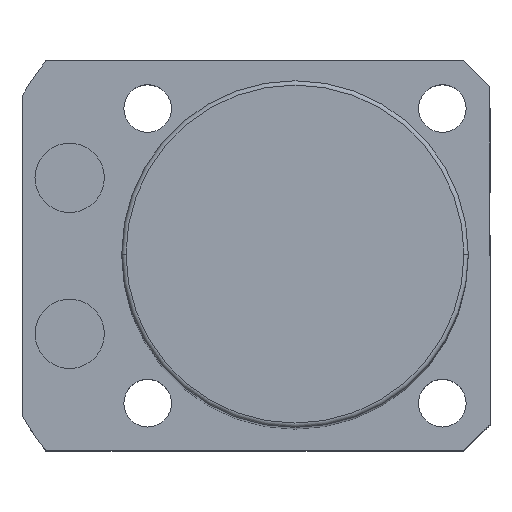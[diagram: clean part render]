
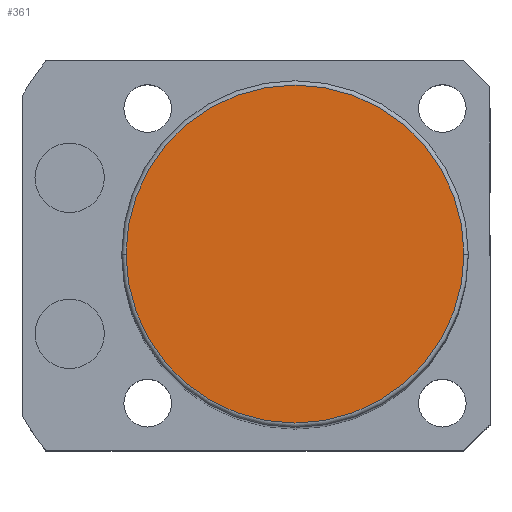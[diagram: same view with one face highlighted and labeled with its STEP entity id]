
A CAD part, top view. The second image highlights one B-rep face of the part: STEP entity #361.
In plain terms, the highlighted planar face has unit normal (0, 0, 1).
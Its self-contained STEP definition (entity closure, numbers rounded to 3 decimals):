
#57 = VERTEX_POINT ( 'NONE', #1403 ) ;
#344 = DIRECTION ( 'NONE',  ( 0., 0., 1. ) ) ;
#361 = ADVANCED_FACE ( 'NONE', ( #484 ), #1112, .T. ) ;
#410 = ORIENTED_EDGE ( 'NONE', *, *, #2120, .T. ) ;
#426 = AXIS2_PLACEMENT_3D ( 'NONE', #1879, #2252, #742 ) ;
#438 = CIRCLE ( 'NONE', #1233, 19.5 ) ;
#484 = FACE_OUTER_BOUND ( 'NONE', #518, .T. ) ;
#518 = EDGE_LOOP ( 'NONE', ( #410, #2174 ) ) ;
#648 = DIRECTION ( 'NONE',  ( 0., 0., 1. ) ) ;
#742 = DIRECTION ( 'NONE',  ( 1., 0., 0. ) ) ;
#871 = DIRECTION ( 'NONE',  ( 1., 0., 0. ) ) ;
#1112 = PLANE ( 'NONE',  #426 ) ;
#1116 = VERTEX_POINT ( 'NONE', #1718 ) ;
#1233 = AXIS2_PLACEMENT_3D ( 'NONE', #1667, #344, #1479 ) ;
#1403 = CARTESIAN_POINT ( 'NONE',  ( -19.5, 0., 128.5 ) ) ;
#1444 = CARTESIAN_POINT ( 'NONE',  ( 0., 0., 128.5 ) ) ;
#1479 = DIRECTION ( 'NONE',  ( 1., 0., 0. ) ) ;
#1521 = EDGE_CURVE ( 'NONE', #57, #1116, #438, .T. ) ;
#1553 = CIRCLE ( 'NONE', #1651, 19.5 ) ;
#1651 = AXIS2_PLACEMENT_3D ( 'NONE', #1444, #648, #871 ) ;
#1667 = CARTESIAN_POINT ( 'NONE',  ( 0., 0., 128.5 ) ) ;
#1718 = CARTESIAN_POINT ( 'NONE',  ( 19.5, 0., 128.5 ) ) ;
#1879 = CARTESIAN_POINT ( 'NONE',  ( 0., 0., 128.5 ) ) ;
#2120 = EDGE_CURVE ( 'NONE', #1116, #57, #1553, .T. ) ;
#2174 = ORIENTED_EDGE ( 'NONE', *, *, #1521, .T. ) ;
#2252 = DIRECTION ( 'NONE',  ( 0., 0., 1. ) ) ;
